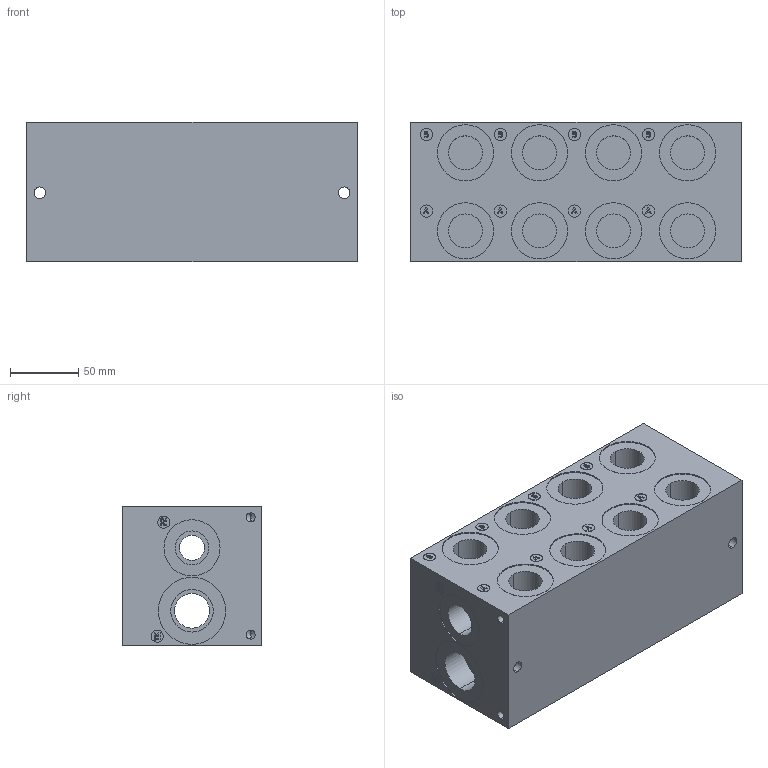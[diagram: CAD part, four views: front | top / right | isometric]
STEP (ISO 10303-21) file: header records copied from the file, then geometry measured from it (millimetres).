
FILE_DESCRIPTION (( 'STEP AP203' ), '1' );
FILE_NAME ('BMR-AHP03S2-04-1_Z.STEP', '2015-01-06T15:22:58', ( '' ), ( '' ), 'SwSTEP 2.0', 'SolidWorks 2014', '' );
FILE_SCHEMA (( 'CONFIG_CONTROL_DESIGN' ));
Length unit declared in the file: inch
Products named in the file (1): BMR-AHP03S2-04-1_Z
Bounding box: 241.3 x 101.6 x 101.6 mm (x, y, z)
Volume: 2179953.4 mm3; surface area: 176847.5 mm2
Topology: 1 solids, 1 shells, 578 faces, 1390 edges, 860 vertices
Faces by surface type: plane 246, cylinder 196, cone 80, bspline 56
Entity records: 19477 total; most frequent: CARTESIAN_POINT 6357, DIRECTION 2636, ORIENTED_EDGE 2620, EDGE_CURVE 1310, AXIS2_PLACEMENT_3D 915, VERTEX_POINT 860, VECTOR 806, LINE 806
